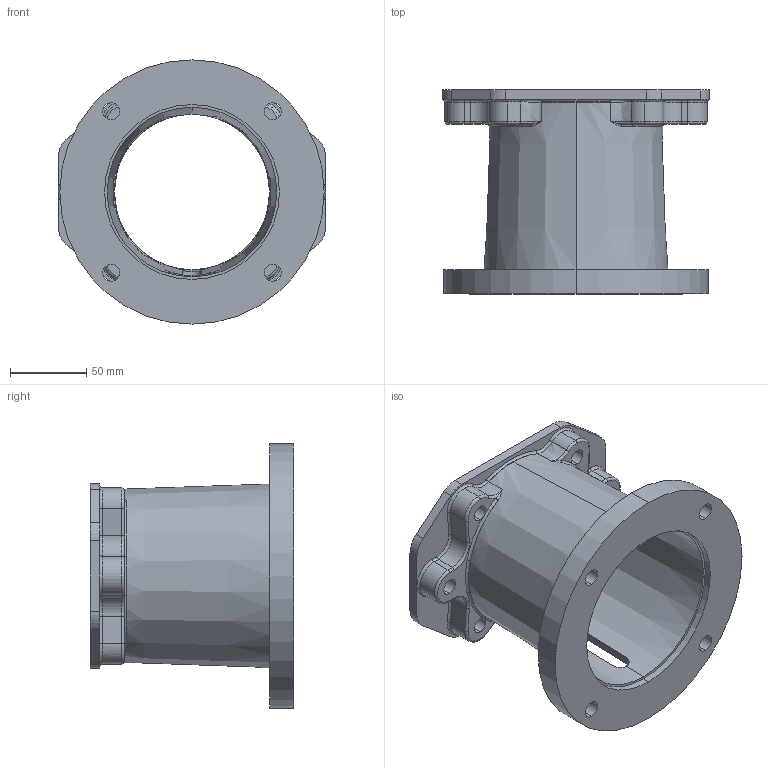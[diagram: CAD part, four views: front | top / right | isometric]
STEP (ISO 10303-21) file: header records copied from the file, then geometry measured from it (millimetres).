
FILE_DESCRIPTION (( 'STEP AP203' ), '1' );
FILE_NAME ('M056522B.STEP', '2009-07-14T19:05:11', ( 'Chris McCoy' ), ( 'Magnaloy Coupling Co' ), 'SwSTEP 2.0', 'SolidWorks 2009', '' );
FILE_SCHEMA (( 'CONFIG_CONTROL_DESIGN' ));
Length unit declared in the file: inch
Products named in the file (1): M056522B
Bounding box: 174.75 x 133.35 x 172.97 mm (x, y, z)
Volume: 520531.3 mm3; surface area: 148390 mm2
Topology: 1 solids, 1 shells, 212 faces, 569 edges, 340 vertices
Faces by surface type: cylinder 64, bspline 64, torus 55, plane 25, cone 4
Entity records: 9247 total; most frequent: CARTESIAN_POINT 4266, ORIENTED_EDGE 1106, DIRECTION 974, EDGE_CURVE 553, AXIS2_PLACEMENT_3D 428, VERTEX_POINT 340, CIRCLE 279, EDGE_LOOP 233
